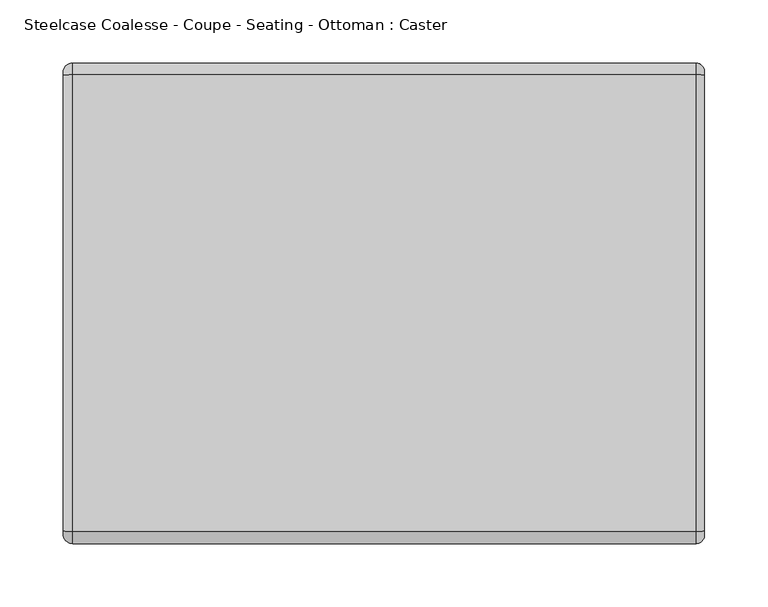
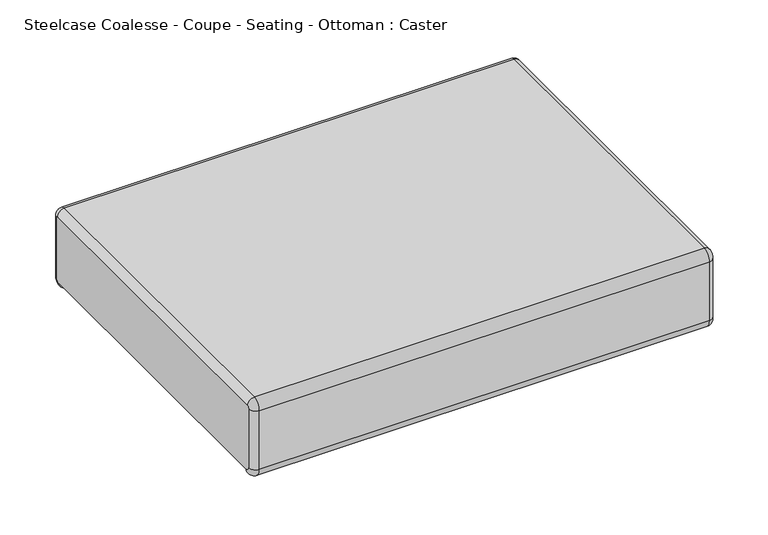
"""IFC4 building model written with IfcOpenShell, lengths in millimetres: furniture geometry, Steelcase Coalesse - Coupe - Seating - Ottoman : Caster."""

from ifc_helpers import new_model, si_unit, point, frame, origin, place, context, project, spatial, circle_curve, ellipse_curve, trimmed, source, transform, mapped, element, save
from ifc_brep_helpers import plane_surface, cylinder_surface, revolved_surface, advanced_brep


def steelcase_coalesse_coupe_seating_ottoman_caster_cce9e3eb(model_context):
    return source(origin(), model_context, "Body", "AdvancedBrep", [
        advanced_brep(
        [(-409.7426096, 223.823068, 361.8543153), (-416.0926096, 223.823068, 355.5043153), (-910.1952947, 223.823068, 355.5043153), (-917.7424158, 223.823068, 363.0514364), (-917.7424158, 223.823068, 363.2772809), (-409.7426096, 223.823068, 363.2772809), (-409.7426096, 218.2497942, 367.4275892), (-409.7426096, 580.2589766, 363.2772809), (-409.7426096, 580.2589766, 361.8543153), (-409.7426096, 585.8322505, 367.4275892), (-409.7426096, 585.8322505, 435.7510942), (-409.7426096, 582.2770292, 439.6930278), (-409.7426096, 221.8050154, 439.6930278), (-409.7426096, 218.2497942, 435.7510942), (-416.0926096, 211.8997942, 367.4275892), (-910.1952947, 211.8997942, 367.4275892), (-917.7424158, 219.4469153, 367.4275892), (-917.7424158, 219.4469153, 435.7510942), (-917.7424158, 221.9281856, 438.50226), (-917.7424158, 582.153859, 438.50226), (-917.7424158, 584.6351294, 435.7510942), (-917.7424158, 584.6351294, 367.4275892), (-917.7424158, 580.2589766, 363.0514364), (-917.7424158, 580.2589766, 363.2772809), (-416.0926096, 211.8997942, 435.7510942), (-910.1952947, 211.8997942, 435.7510942), (-416.0926096, 221.1516723, 446.0093276), (-910.1952947, 221.1516723, 446.0093276), (-416.0926096, 582.9303724, 446.0093276), (-910.1952947, 582.9303724, 446.0093276), (-416.0926096, 592.1822505, 435.7510942), (-910.1952947, 592.1822505, 435.7510942), (-416.0926096, 592.1822505, 367.4275892), (-910.1952947, 592.1822505, 367.4275892), (-910.1952947, 580.2589766, 355.5043153), (-416.0926096, 580.2589766, 355.5043153)],
        [
            (0, 1, circle_curve(frame((-416.0926096, 223.823068, 361.8543153), z_axis=(0.0, 1.0, 0.0), x_axis=(0.0, 0.0, -1.0)), 6.35)),
            (1, 2),
            (2, 3, circle_curve(frame((-910.1952947, 223.823068, 363.0514364), z_axis=(0.0, 1.0, 0.0), x_axis=(0.0, 0.0, -1.0)), 7.5471211)),
            (3, 4),
            (4, 5),
            (5, 0),
            (6, 0, circle_curve(frame((-409.7426096, 223.823068, 367.4275892), z_axis=(1.0, 0.0, 0.0), x_axis=(0.0, 0.0, -1.0)), 5.5732738)),
            (5, 7),
            (7, 8),
            (8, 9, circle_curve(frame((-409.7426096, 580.2589766, 367.4275892), z_axis=(1.0, 0.0, 0.0), x_axis=(0.0, 1.0, 0.0)), 5.5732738)),
            (9, 10),
            (10, 11, circle_curve(frame((-409.7426096, 581.8692849, 435.7510942), z_axis=(1.0, 0.0, 0.0), x_axis=(0.0, 0.10288868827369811, 0.9946928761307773)), 3.9629656)),
            (11, 12, circle_curve(frame((-409.7426096, 402.0410223, -1302.7674418), z_axis=(1.0, 0.0, 0.0), x_axis=(0.0, -0.1028886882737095, 0.9946928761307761)), 1751.7572624)),
            (12, 13, circle_curve(frame((-409.7426096, 222.2127598, 435.7510942), z_axis=(1.0, 0.0, 0.0), x_axis=(0.0, -1.0, 0.0)), 3.9629656)),
            (13, 6),
            (6, 14, circle_curve(frame((-416.0926096, 218.2497942, 367.4275892), z_axis=(0.0, 0.0, -1.0), x_axis=(0.0, -1.0, 0.0)), 6.35)),
            (14, 1, circle_curve(frame((-416.0926096, 223.823068, 367.4275892), z_axis=(1.0, 0.0, 0.0), x_axis=(0.0, 0.0, -1.0)), 11.9232738)),
            (14, 15),
            (15, 2, circle_curve(frame((-910.1952947, 223.823068, 367.4275892), z_axis=(1.0, 0.0, 0.0), x_axis=(0.0, 0.0, -1.0)), 11.9232738)),
            (15, 16, circle_curve(frame((-910.1952947, 219.4469153, 367.4275892), z_axis=(0.0, 0.0, -1.0), x_axis=(0.0, -1.0, 0.0)), 7.5471211)),
            (16, 3, circle_curve(frame((-917.7424158, 223.823068, 367.4275892), z_axis=(1.0, 0.0, 0.0), x_axis=(0.0, 0.0, -1.0)), 4.3761528)),
            (16, 17),
            (17, 18, circle_curve(frame((-917.7424158, 222.2127598, 435.7510942), z_axis=(-1.0, 0.0, 0.0), x_axis=(0.0, -1.0, 0.0)), 2.7658445)),
            (18, 19, circle_curve(frame((-917.7424158, 402.0410223, -1302.7674418), z_axis=(-1.0, 0.0, 0.0), x_axis=(0.0, -0.1028886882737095, 0.9946928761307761)), 1750.5601414)),
            (19, 20, circle_curve(frame((-917.7424158, 581.8692849, 435.7510942), z_axis=(-1.0, 0.0, 0.0), x_axis=(0.0, 0.10288868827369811, 0.9946928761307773)), 2.7658445)),
            (20, 21),
            (21, 22, circle_curve(frame((-917.7424158, 580.2589766, 367.4275892), z_axis=(-1.0, 0.0, 0.0), x_axis=(0.0, 1.0, 0.0)), 4.3761528)),
            (22, 23),
            (23, 4),
            (13, 24, circle_curve(frame((-416.0926096, 218.2497942, 435.7510942), z_axis=(0.0, 0.0, -1.0), x_axis=(0.0, -1.0, 0.0)), 6.35)),
            (24, 14),
            (24, 25),
            (25, 15),
            (25, 17, circle_curve(frame((-910.1952947, 219.4469153, 435.7510942), z_axis=(0.0, 0.0, -1.0), x_axis=(0.0, -1.0, 0.0)), 7.5471211)),
            (12, 26, circle_curve(frame((-416.0926096, 221.8050154, 439.6930278), z_axis=(0.0, -0.994692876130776, -0.10288868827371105), x_axis=(0.0, -0.10288868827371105, 0.994692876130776)), 6.35)),
            (26, 24, circle_curve(frame((-416.0926096, 222.2127598, 435.7510942), z_axis=(1.0, 0.0, 0.0), x_axis=(0.0, -1.0, 0.0)), 10.3129656)),
            (26, 27),
            (27, 25, circle_curve(frame((-910.1952947, 222.2127598, 435.7510942), z_axis=(1.0, 0.0, 0.0), x_axis=(0.0, -1.0, 0.0)), 10.3129656)),
            (27, 18, circle_curve(frame((-910.1952947, 221.9281856, 438.50226), z_axis=(0.0, -0.9946928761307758, -0.10288868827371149), x_axis=(0.0, -0.10288868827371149, 0.9946928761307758)), 7.5471211)),
            (11, 28, circle_curve(frame((-416.0926096, 582.2770292, 439.6930278), z_axis=(0.0, -0.9946928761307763, 0.10288868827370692), x_axis=(0.0, 0.10288868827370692, 0.9946928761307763)), 6.35)),
            (28, 26, circle_curve(frame((-416.0926096, 402.0410223, -1302.7674418), z_axis=(1.0, 0.0, 0.0), x_axis=(0.0, -0.1028886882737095, 0.9946928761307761)), 1758.1072624)),
            (28, 29),
            (29, 27, circle_curve(frame((-910.1952947, 402.0410223, -1302.7674418), z_axis=(1.0, 0.0, 0.0), x_axis=(0.0, -0.1028886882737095, 0.9946928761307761)), 1758.1072624)),
            (29, 19, circle_curve(frame((-910.1952947, 582.153859, 438.50226), z_axis=(0.0, -0.9946928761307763, 0.1028886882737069), x_axis=(0.0, 0.1028886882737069, 0.9946928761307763)), 7.5471211)),
            (10, 30, circle_curve(frame((-416.0926096, 585.8322505, 435.7510942), z_axis=(0.0, 0.0, 1.0), x_axis=(0.0, 1.0, 0.0)), 6.35)),
            (30, 28, circle_curve(frame((-416.0926096, 581.8692849, 435.7510942), z_axis=(1.0, 0.0, 0.0), x_axis=(0.0, 0.10288868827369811, 0.9946928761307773)), 10.3129656)),
            (30, 31),
            (31, 29, circle_curve(frame((-910.1952947, 581.8692849, 435.7510942), z_axis=(1.0, 0.0, 0.0), x_axis=(0.0, 0.10288868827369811, 0.9946928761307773)), 10.3129656)),
            (31, 20, circle_curve(frame((-910.1952947, 584.6351294, 435.7510942), z_axis=(0.0, 0.0, 1.0), x_axis=(0.0, 1.0, 0.0)), 7.5471211)),
            (9, 32, circle_curve(frame((-416.0926096, 585.8322505, 367.4275892), z_axis=(0.0, 0.0, 1.0), x_axis=(0.0, 1.0, 0.0)), 6.35)),
            (32, 30),
            (32, 33),
            (33, 31),
            (33, 21, circle_curve(frame((-910.1952947, 584.6351294, 367.4275892), z_axis=(0.0, 0.0, 1.0), x_axis=(0.0, 1.0, 0.0)), 7.5471211)),
            (22, 34, circle_curve(frame((-910.1952947, 580.2589766, 363.0514364), z_axis=(0.0, -1.0, 0.0), x_axis=(0.0, 0.0, -1.0)), 7.5471211)),
            (34, 35),
            (35, 8, circle_curve(frame((-416.0926096, 580.2589766, 361.8543153), z_axis=(0.0, -1.0, 0.0), x_axis=(0.0, 0.0, -1.0)), 6.35)),
            (7, 23),
            (35, 32, circle_curve(frame((-416.0926096, 580.2589766, 367.4275892), z_axis=(1.0, 0.0, 0.0), x_axis=(0.0, 1.0, 0.0)), 11.9232738)),
            (34, 33, circle_curve(frame((-910.1952947, 580.2589766, 367.4275892), z_axis=(1.0, 0.0, 0.0), x_axis=(0.0, 1.0, 0.0)), 11.9232738)),
        ],
        [
            plane_surface(frame((-663.917922, 223.823068, 363.2772809), z_axis=(0.0, 1.0, 0.0), x_axis=(1.0, 0.0, 0.0))),
            plane_surface(frame((-409.7426096, 223.823068, 367.4275892), z_axis=(1.0, 0.0, 0.0), x_axis=(0.0, 0.0, -1.0))),
            revolved_surface(trimmed(ellipse_curve(frame((-416.0926096, 223.823068, 361.8543153), z_axis=(0.0, 1.0, 0.0), x_axis=(0.0, 0.0, -1.0)), 6.35, 6.35), [point((-409.7426096, 223.823068, 361.8543153))], [point((-416.0926096, 223.823068, 355.5043153))], True, "CARTESIAN"), (-663.917922, 223.823068, 367.4275892), (-1.0, 0.0, 0.0)),
            cylinder_surface(frame((-663.917922, 223.823068, 367.4275892), z_axis=(-1.0, 0.0, 0.0), x_axis=(0.0, 0.0, -1.0)), 11.9232738),
            revolved_surface(trimmed(ellipse_curve(frame((-910.1952947, 223.823068, 363.0514364), z_axis=(0.0, 1.0, 0.0), x_axis=(0.0, 0.0, -1.0)), 7.5471211, 7.5471211), [point((-910.1952947, 223.823068, 355.5043153))], [point((-917.7424158, 223.823068, 363.0514364))], True, "CARTESIAN"), (-663.917922, 223.823068, 367.4275892), (-1.0, 0.0, 0.0)),
            plane_surface(frame((-917.7424158, 223.823068, 367.4275892), z_axis=(-1.0, 0.0, 0.0), x_axis=(0.0, 0.0, -1.0))),
            cylinder_surface(frame((-416.0926096, 218.2497942, 367.4275892), z_axis=(0.0, 0.0, -1.0), x_axis=(0.0, -1.0, 0.0)), 6.35),
            plane_surface(frame((-416.0926096, 211.8997942, 367.4275892), z_axis=(0.0, -1.0, 0.0), x_axis=(0.0, 0.0, 1.0))),
            cylinder_surface(frame((-910.1952947, 219.4469153, 367.4275892), z_axis=(0.0, 0.0, -1.0), x_axis=(0.0, -1.0, 0.0)), 7.5471211),
            revolved_surface(trimmed(ellipse_curve(frame((-416.0926096, 218.2497942, 435.7510942), z_axis=(0.0, 0.0, -1.0), x_axis=(0.0, -1.0, 0.0)), 6.35, 6.35), [point((-409.7426096, 218.2497942, 435.7510942))], [point((-416.0926096, 211.8997942, 435.7510942))], True, "CARTESIAN"), (-663.917922, 222.2127598, 435.7510942), (-1.0, 0.0, 0.0)),
            cylinder_surface(frame((-663.917922, 222.2127598, 435.7510942), z_axis=(-1.0, 0.0, 0.0), x_axis=(0.0, -1.0, 0.0)), 10.3129656),
            revolved_surface(trimmed(ellipse_curve(frame((-910.1952947, 219.4469153, 435.7510942), z_axis=(0.0, 0.0, -1.0), x_axis=(0.0, -1.0, 0.0)), 7.5471211, 7.5471211), [point((-910.1952947, 211.8997942, 435.7510942))], [point((-917.7424158, 219.4469153, 435.7510942))], True, "CARTESIAN"), (-663.917922, 222.2127598, 435.7510942), (-1.0, 0.0, 0.0)),
            revolved_surface(trimmed(ellipse_curve(frame((-416.0926096, 221.8050154, 439.6930278), z_axis=(0.0, -0.9946928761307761, -0.1028886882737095), x_axis=(0.0, -0.1028886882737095, 0.9946928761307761)), 6.35, 6.35), [point((-409.7426096, 221.8050154, 439.6930278))], [point((-416.0926096, 221.1516723, 446.0093276))], True, "CARTESIAN"), (-663.917922, 402.0410223, -1302.7674418), (-1.0, 0.0, 0.0)),
            cylinder_surface(frame((-663.917922, 402.0410223, -1302.7674418), z_axis=(-1.0, 0.0, 0.0), x_axis=(0.0, -0.1028886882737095, 0.9946928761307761)), 1758.1072624),
            revolved_surface(trimmed(ellipse_curve(frame((-910.1952947, 221.9281856, 438.50226), z_axis=(0.0, -0.9946928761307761, -0.1028886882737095), x_axis=(0.0, -0.1028886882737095, 0.9946928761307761)), 7.5471211, 7.5471211), [point((-910.1952947, 221.1516723, 446.0093276))], [point((-917.7424158, 221.9281856, 438.50226))], True, "CARTESIAN"), (-663.917922, 402.0410223, -1302.7674418), (-1.0, 0.0, 0.0)),
            revolved_surface(trimmed(ellipse_curve(frame((-416.0926096, 582.2770292, 439.6930278), z_axis=(0.0, -0.9946928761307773, 0.10288868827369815), x_axis=(0.0, 0.10288868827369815, 0.9946928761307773)), 6.35, 6.35), [point((-409.7426096, 582.2770292, 439.6930278))], [point((-416.0926096, 582.9303724, 446.0093276))], True, "CARTESIAN"), (-663.917922, 581.8692849, 435.7510942), (-1.0, 0.0, 0.0)),
            cylinder_surface(frame((-663.917922, 581.8692849, 435.7510942), z_axis=(-1.0, 0.0, 0.0), x_axis=(0.0, 0.10288868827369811, 0.9946928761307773)), 10.3129656),
            revolved_surface(trimmed(ellipse_curve(frame((-910.1952947, 582.153859, 438.50226), z_axis=(0.0, -0.9946928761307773, 0.10288868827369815), x_axis=(0.0, 0.10288868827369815, 0.9946928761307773)), 7.5471211, 7.5471211), [point((-910.1952947, 582.9303724, 446.0093276))], [point((-917.7424158, 582.153859, 438.50226))], True, "CARTESIAN"), (-663.917922, 581.8692849, 435.7510942), (-1.0, 0.0, 0.0)),
            cylinder_surface(frame((-416.0926096, 585.8322505, 435.7510942), z_axis=(0.0, 0.0, 1.0), x_axis=(0.0, 1.0, 0.0)), 6.35),
            plane_surface(frame((-416.0926096, 592.1822505, 435.7510942), z_axis=(0.0, 1.0, 0.0), x_axis=(0.0, 0.0, -1.0))),
            cylinder_surface(frame((-910.1952947, 584.6351294, 435.7510942), z_axis=(0.0, 0.0, 1.0), x_axis=(0.0, 1.0, 0.0)), 7.5471211),
            plane_surface(frame((-663.917922, 580.2589766, 363.2772809), z_axis=(0.0, -1.0, 0.0), x_axis=(1.0, 0.0, 0.0))),
            revolved_surface(trimmed(ellipse_curve(frame((-416.0926096, 585.8322505, 367.4275892), z_axis=(0.0, 0.0, 1.0), x_axis=(0.0, 1.0, 0.0)), 6.35, 6.35), [point((-409.7426096, 585.8322505, 367.4275892))], [point((-416.0926096, 592.1822505, 367.4275892))], True, "CARTESIAN"), (-663.917922, 580.2589766, 367.4275892), (-1.0, 0.0, 0.0)),
            cylinder_surface(frame((-663.917922, 580.2589766, 367.4275892), z_axis=(-1.0, 0.0, 0.0), x_axis=(0.0, 1.0, 0.0)), 11.9232738),
            revolved_surface(trimmed(ellipse_curve(frame((-910.1952947, 584.6351294, 367.4275892), z_axis=(0.0, 0.0, 1.0), x_axis=(0.0, 1.0, 0.0)), 7.5471211, 7.5471211), [point((-910.1952947, 592.1822505, 367.4275892))], [point((-917.7424158, 584.6351294, 367.4275892))], True, "CARTESIAN"), (-663.917922, 580.2589766, 367.4275892), (-1.0, 0.0, 0.0)),
            plane_surface(frame((-917.7424158, 580.2589766, 363.2772809), z_axis=(0.0, 0.0, -1.0), x_axis=(1.0, 0.0, 0.0))),
        ],
        [
            (0, [[1, 2, 3, 4, 5, 6]]),
            (1, [[7, -6, 8, 9, 10, 11, 12, 13, 14, 15]]),
            (2, [[-1, -7, 16, 17]]),
            (3, [[-2, -17, 18, 19]]),
            (4, [[-3, -19, 20, 21]]),
            (5, [[-21, 22, 23, 24, 25, 26, 27, 28, 29, -4]]),
            (6, [[-15, 30, 31, -16]]),
            (7, [[-18, -31, 32, 33]]),
            (8, [[-20, -33, 34, -22]]),
            (9, [[-14, 35, 36, -30]]),
            (10, [[-32, -36, 37, 38]]),
            (11, [[-23, -34, -38, 39]]),
            (12, [[-13, 40, 41, -35]]),
            (13, [[-37, -41, 42, 43]]),
            (14, [[-24, -39, -43, 44]]),
            (15, [[-12, 45, 46, -40]]),
            (16, [[-42, -46, 47, 48]]),
            (17, [[-25, -44, -48, 49]]),
            (18, [[-11, 50, 51, -45]]),
            (19, [[-47, -51, 52, 53]]),
            (20, [[-26, -49, -53, 54]]),
            (21, [[55, 56, 57, -9, 58, -28]]),
            (22, [[-10, -57, 59, -50]]),
            (23, [[-52, -59, -56, 60]]),
            (24, [[-27, -54, -60, -55]]),
            (25, [[-29, -58, -8, -5]]),
        ],
    ),
    ])


if __name__ == "__main__":
    model = new_model("IFC4")
    model_context = context("Model", 3, world=origin())
    ifc_project = project(units=[si_unit("LENGTHUNIT", "METRE", prefix="MILLI")], contexts=[model_context])
    site = spatial("IfcSite", under=ifc_project)
    building = spatial("IfcBuilding", under=site)
    placement = place(None, origin())
    steelcase_coalesse_coupe_seating_ottoman_caster_shape = steelcase_coalesse_coupe_seating_ottoman_caster_cce9e3eb(model_context)
    element("IfcFurniture", 1, ObjectType="Steelcase Coalesse - Coupe - Seating - Ottoman : Caster", at=placement, inside=building, context=model_context, shape_type="MappedRepresentation", body=[
        mapped(steelcase_coalesse_coupe_seating_ottoman_caster_shape, transform((0.0, 0.0, 0.0), x_axis=(1.0, 0.0, 0.0), y_axis=(0.0, 1.0, 0.0), z_axis=(0.0, 0.0, 1.0))),
    ])
    save(model, "model.ifc")
